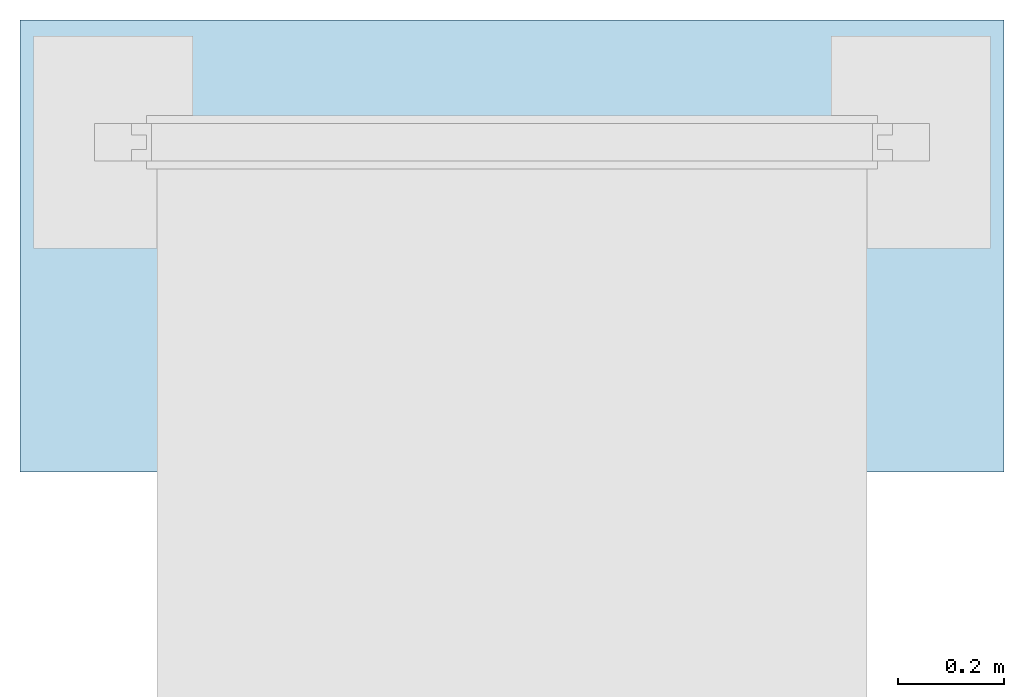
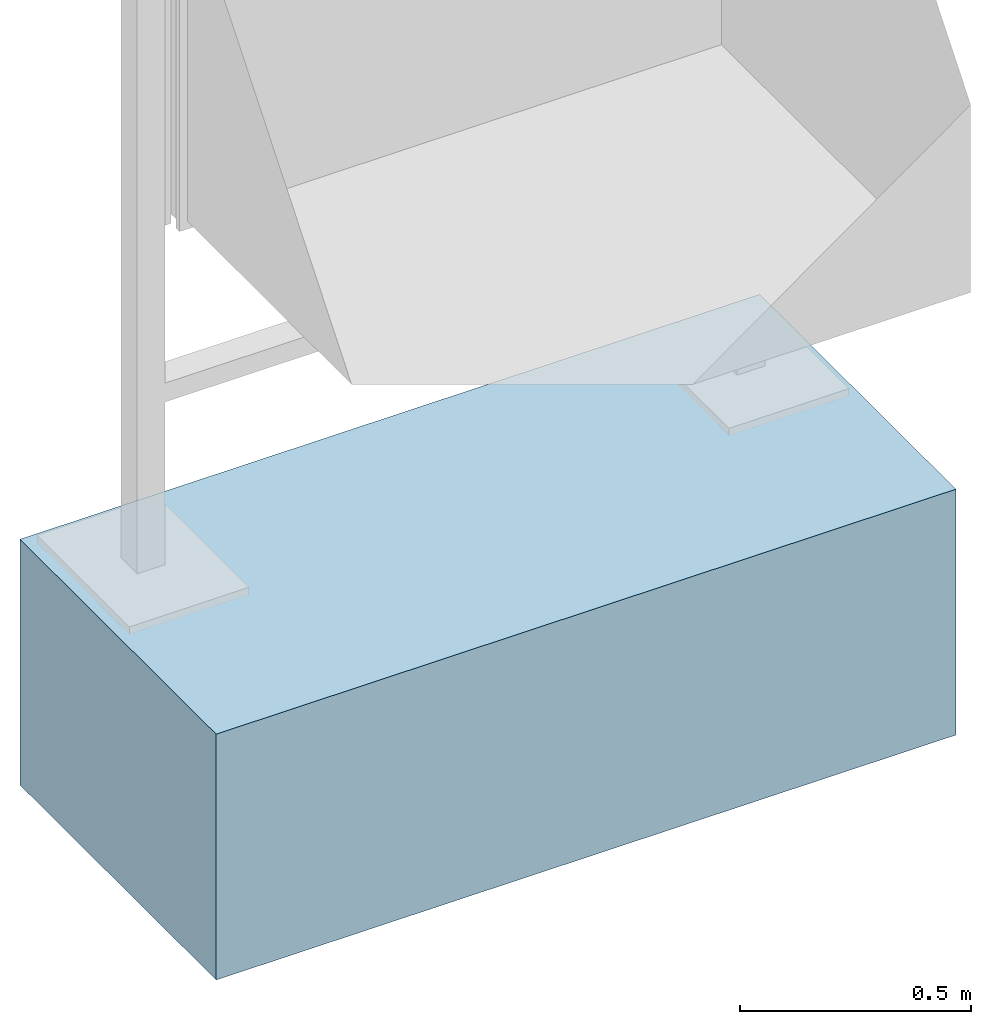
# One storey, incomplete: 1 slab.
"""IFC4 building model written with IfcOpenShell, lengths in metres."""

from ifc_helpers import new_model, entity, si_unit, converted_unit, direction, frame, frame_2d, origin, origin_2d_with_axis, place, context, subcontext, project, spatial, rectangle, extrude, material, type_object, element, save


model = new_model("IFC4")

# Units and contexts
model_context = context("Model", 3, precision=1e-05, world=origin(), true_north=direction((6.123031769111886e-17, 1.0)))
body_context = subcontext(model_context, "Body", "Model", "MODEL_VIEW")
ifc_project = project(units=[si_unit("LENGTHUNIT", "METRE"), converted_unit("PLANEANGLEUNIT", "DEGREE", entity("IfcPlaneAngleMeasure", 0.017453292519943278), si_unit("PLANEANGLEUNIT", "RADIAN"), dimensions=[0, 0, 0, 0, 0, 0, 0]), si_unit("AREAUNIT", "SQUARE_METRE")], contexts=[model_context])

# Site, building, storey
site_placement = place(None, origin())
site = spatial("IfcSite", under=ifc_project, at=site_placement, Name="Default", CompositionType="ELEMENT")
building_placement = place(site_placement, origin())
building = spatial("IfcBuilding", under=site, at=building_placement, CompositionType="ELEMENT")
storey_placement = place(building_placement, origin())
storey = spatial("IfcBuildingStorey", under=building, at=storey_placement, Name="Ebene 0", CompositionType="ELEMENT", Elevation=0.0)

# Slab
ifc_material = material(Name="DB_Magerbeton", Category="DB_Beton")
slab_type = type_object("IfcSlabType", Name="DB_Vitrine_Fundament_einfeldrig_Windlastzone_1_2:DB_Vitrine_Fundament_dreifeldrig_Windlastzone_1_2", PredefinedType="BASESLAB", material=ifc_material)
slab_placement = place(storey_placement, origin())
element("IfcSlab", 1, at=slab_placement, inside=storey, type_object=slab_type, Name="DB_Vitrine_Fundament_einfeldrig_Windlastzone_1_2:DB_Vitrine_Fundament_dreifeldrig_Windlastzone_1_2", ObjectType="DB_Vitrine_Fundament_einfeldrig_Windlastzone_1_2:DB_Vitrine_Fundament_dreifeldrig_Windlastzone_1_2", PredefinedType="BASESLAB", context=body_context, shape_type="SweptSolid", body=[
    extrude(rectangle(XDim=0.8500000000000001, YDim=1.85, at=frame_2d((5.551115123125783e-17, 5.551115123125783e-17), x_axis=(1.0, 0.0))), frame((0.7500000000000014, -0.19499999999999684, 0.0), z_axis=(0.0, 0.0, 1.0), x_axis=(0.0, -1.0, 0.0)), (0.0, 0.0, 1.0), 0.04999999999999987),
    extrude(rectangle(XDim=1.85, YDim=0.8500000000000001, at=origin_2d_with_axis()), frame((0.7500000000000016, -0.19499999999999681, 0.04999999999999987), z_axis=(0.0, 0.0, 1.0), x_axis=(-1.0, 0.0, 0.0)), (0.0, 0.0, 1.0), 0.5999999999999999),
])

save(model, "model.ifc")
